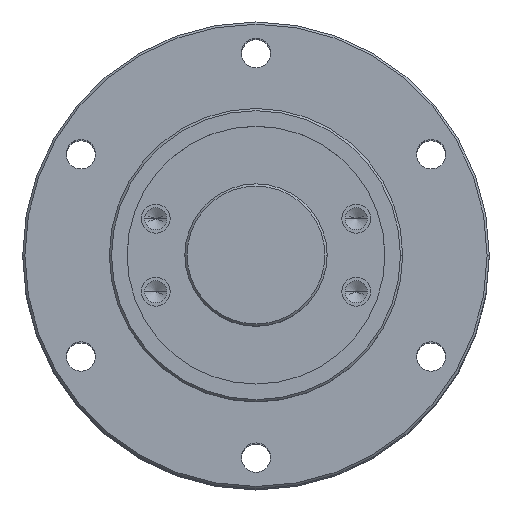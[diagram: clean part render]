
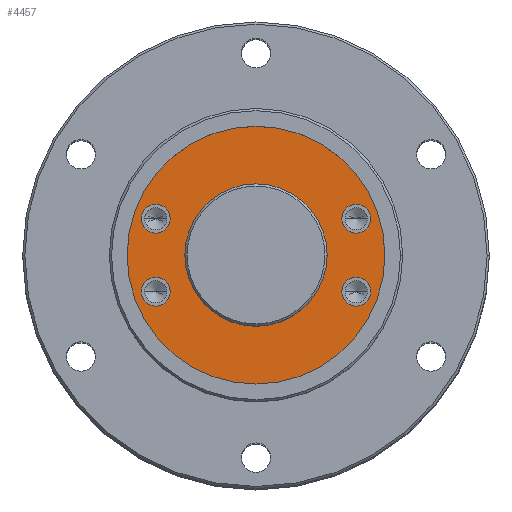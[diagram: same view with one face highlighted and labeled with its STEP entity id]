
A CAD part, top view. The second image highlights one B-rep face of the part: STEP entity #4457.
In plain terms, the highlighted planar face has unit normal (0, 0, 1).
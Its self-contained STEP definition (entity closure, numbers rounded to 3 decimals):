
#86 = EDGE_LOOP ( 'NONE', ( #2234, #2923 ) ) ;
#212 = CARTESIAN_POINT ( 'NONE',  ( 0., 0., 0. ) ) ;
#229 = VERTEX_POINT ( 'NONE', #3981 ) ;
#236 = AXIS2_PLACEMENT_3D ( 'NONE', #826, #3849, #1262 ) ;
#238 = CARTESIAN_POINT ( 'NONE',  ( 19.303, -8.208, 0. ) ) ;
#284 = CARTESIAN_POINT ( 'NONE',  ( 25.803, -8.208, 0. ) ) ;
#426 = AXIS2_PLACEMENT_3D ( 'NONE', #993, #4024, #1432 ) ;
#431 = DIRECTION ( 'NONE',  ( 0., 0., 1. ) ) ;
#594 = EDGE_CURVE ( 'NONE', #2376, #5183, #2347, .T. ) ;
#601 = AXIS2_PLACEMENT_3D ( 'NONE', #4185, #2427, #5613 ) ;
#611 = AXIS2_PLACEMENT_3D ( 'NONE', #4531, #1868, #4989 ) ;
#618 = CARTESIAN_POINT ( 'NONE',  ( -25.803, -8.208, 0. ) ) ;
#626 = DIRECTION ( 'NONE',  ( 0., 0., 1. ) ) ;
#654 = DIRECTION ( 'NONE',  ( 1., 0., 0. ) ) ;
#772 = ORIENTED_EDGE ( 'NONE', *, *, #3962, .F. ) ;
#826 = CARTESIAN_POINT ( 'NONE',  ( 0., 0., 0. ) ) ;
#829 = FACE_OUTER_BOUND ( 'NONE', #994, .T. ) ;
#846 = VERTEX_POINT ( 'NONE', #238 ) ;
#872 = ORIENTED_EDGE ( 'NONE', *, *, #594, .F. ) ;
#899 = CIRCLE ( 'NONE', #3048, 3.25 ) ;
#993 = CARTESIAN_POINT ( 'NONE',  ( -22.553, -8.208, 0. ) ) ;
#994 = EDGE_LOOP ( 'NONE', ( #1133, #5261 ) ) ;
#1031 = CIRCLE ( 'NONE', #3190, 3.25 ) ;
#1133 = ORIENTED_EDGE ( 'NONE', *, *, #5597, .T. ) ;
#1141 = DIRECTION ( 'NONE',  ( 0., 0., 1. ) ) ;
#1182 = CARTESIAN_POINT ( 'NONE',  ( -22.553, -8.208, 0. ) ) ;
#1206 = CARTESIAN_POINT ( 'NONE',  ( 25.803, 8.208, 0. ) ) ;
#1262 = DIRECTION ( 'NONE',  ( 1., 0., 0. ) ) ;
#1264 = AXIS2_PLACEMENT_3D ( 'NONE', #3191, #626, #3628 ) ;
#1310 = VERTEX_POINT ( 'NONE', #4133 ) ;
#1377 = CARTESIAN_POINT ( 'NONE',  ( 22.553, -8.208, 0. ) ) ;
#1432 = DIRECTION ( 'NONE',  ( -1., 0., 0. ) ) ;
#1523 = CIRCLE ( 'NONE', #2140, 3.25 ) ;
#1526 = VERTEX_POINT ( 'NONE', #1206 ) ;
#1555 = CARTESIAN_POINT ( 'NONE',  ( -22.553, 8.208, 0. ) ) ;
#1586 = EDGE_LOOP ( 'NONE', ( #772, #3924 ) ) ;
#1615 = DIRECTION ( 'NONE',  ( 0., 0., 1. ) ) ;
#1616 = EDGE_LOOP ( 'NONE', ( #4985, #872 ) ) ;
#1617 = CIRCLE ( 'NONE', #1787, 16. ) ;
#1624 = DIRECTION ( 'NONE',  ( -1., 0., 0. ) ) ;
#1717 = EDGE_CURVE ( 'NONE', #4549, #2409, #1523, .T. ) ;
#1725 = VERTEX_POINT ( 'NONE', #284 ) ;
#1787 = AXIS2_PLACEMENT_3D ( 'NONE', #4228, #1615, #4714 ) ;
#1802 = DIRECTION ( 'NONE',  ( 1., 0., 0. ) ) ;
#1814 = FACE_BOUND ( 'NONE', #86, .T. ) ;
#1815 = CARTESIAN_POINT ( 'NONE',  ( -19.303, -8.208, 0. ) ) ;
#1845 = EDGE_CURVE ( 'NONE', #1526, #2453, #5302, .T. ) ;
#1868 = DIRECTION ( 'NONE',  ( 0., 0., 1. ) ) ;
#1968 = DIRECTION ( 'NONE',  ( -1., 0., 0. ) ) ;
#1974 = EDGE_LOOP ( 'NONE', ( #4764, #4890 ) ) ;
#1990 = EDGE_CURVE ( 'NONE', #2409, #4549, #1031, .T. ) ;
#1999 = DIRECTION ( 'NONE',  ( 0., 0., 1. ) ) ;
#2030 = CIRCLE ( 'NONE', #426, 3.25 ) ;
#2140 = AXIS2_PLACEMENT_3D ( 'NONE', #3726, #1141, #4188 ) ;
#2234 = ORIENTED_EDGE ( 'NONE', *, *, #1845, .F. ) ;
#2347 = CIRCLE ( 'NONE', #3863, 3.25 ) ;
#2376 = VERTEX_POINT ( 'NONE', #618 ) ;
#2409 = VERTEX_POINT ( 'NONE', #4530 ) ;
#2410 = CIRCLE ( 'NONE', #3936, 29. ) ;
#2427 = DIRECTION ( 'NONE',  ( 0., 0., -1. ) ) ;
#2433 = EDGE_CURVE ( 'NONE', #229, #1310, #3460, .T. ) ;
#2453 = VERTEX_POINT ( 'NONE', #5511 ) ;
#2599 = ORIENTED_EDGE ( 'NONE', *, *, #3483, .F. ) ;
#2923 = ORIENTED_EDGE ( 'NONE', *, *, #2991, .F. ) ;
#2962 = FACE_BOUND ( 'NONE', #3766, .T. ) ;
#2984 = CARTESIAN_POINT ( 'NONE',  ( 22.553, -8.208, 0. ) ) ;
#2991 = EDGE_CURVE ( 'NONE', #2453, #1526, #899, .T. ) ;
#3048 = AXIS2_PLACEMENT_3D ( 'NONE', #4679, #1999, #5146 ) ;
#3088 = FACE_BOUND ( 'NONE', #1974, .T. ) ;
#3117 = AXIS2_PLACEMENT_3D ( 'NONE', #2984, #431, #3430 ) ;
#3190 = AXIS2_PLACEMENT_3D ( 'NONE', #1555, #4635, #1968 ) ;
#3191 = CARTESIAN_POINT ( 'NONE',  ( 0., 0., 0. ) ) ;
#3208 = DIRECTION ( 'NONE',  ( 0., 0., 1. ) ) ;
#3289 = CARTESIAN_POINT ( 'NONE',  ( 16., 0., 0. ) ) ;
#3358 = CARTESIAN_POINT ( 'NONE',  ( -25.803, 8.208, 0. ) ) ;
#3361 = CIRCLE ( 'NONE', #5640, 3.25 ) ;
#3430 = DIRECTION ( 'NONE',  ( 1., 0., 0. ) ) ;
#3460 = CIRCLE ( 'NONE', #1264, 29. ) ;
#3483 = EDGE_CURVE ( 'NONE', #846, #1725, #5497, .T. ) ;
#3524 = ORIENTED_EDGE ( 'NONE', *, *, #5406, .F. ) ;
#3628 = DIRECTION ( 'NONE',  ( 1., 0., 0. ) ) ;
#3726 = CARTESIAN_POINT ( 'NONE',  ( -22.553, 8.208, 0. ) ) ;
#3736 = VERTEX_POINT ( 'NONE', #3289 ) ;
#3766 = EDGE_LOOP ( 'NONE', ( #3524, #2599 ) ) ;
#3849 = DIRECTION ( 'NONE',  ( 0., 0., 1. ) ) ;
#3863 = AXIS2_PLACEMENT_3D ( 'NONE', #1182, #4233, #1624 ) ;
#3924 = ORIENTED_EDGE ( 'NONE', *, *, #5743, .F. ) ;
#3936 = AXIS2_PLACEMENT_3D ( 'NONE', #212, #3208, #654 ) ;
#3962 = EDGE_CURVE ( 'NONE', #3736, #4968, #5282, .T. ) ;
#3981 = CARTESIAN_POINT ( 'NONE',  ( -29., 0., 0. ) ) ;
#4024 = DIRECTION ( 'NONE',  ( 0., 0., 1. ) ) ;
#4133 = CARTESIAN_POINT ( 'NONE',  ( 29., 0., 0. ) ) ;
#4151 = FACE_BOUND ( 'NONE', #1616, .T. ) ;
#4185 = CARTESIAN_POINT ( 'NONE',  ( 0., 29., 0. ) ) ;
#4188 = DIRECTION ( 'NONE',  ( -1., 0., 0. ) ) ;
#4228 = CARTESIAN_POINT ( 'NONE',  ( 0., 0., 0. ) ) ;
#4233 = DIRECTION ( 'NONE',  ( 0., 0., 1. ) ) ;
#4248 = EDGE_CURVE ( 'NONE', #5183, #2376, #2030, .T. ) ;
#4444 = DIRECTION ( 'NONE',  ( 0., 0., 1. ) ) ;
#4457 = ADVANCED_FACE ( 'NONE', ( #5422, #3088, #4151, #2962, #1814, #829 ), #5136, .F. ) ;
#4530 = CARTESIAN_POINT ( 'NONE',  ( -19.303, 8.208, 0. ) ) ;
#4531 = CARTESIAN_POINT ( 'NONE',  ( 22.553, 8.208, 0. ) ) ;
#4549 = VERTEX_POINT ( 'NONE', #3358 ) ;
#4635 = DIRECTION ( 'NONE',  ( 0., 0., 1. ) ) ;
#4679 = CARTESIAN_POINT ( 'NONE',  ( 22.553, 8.208, 0. ) ) ;
#4714 = DIRECTION ( 'NONE',  ( 1., 0., 0. ) ) ;
#4764 = ORIENTED_EDGE ( 'NONE', *, *, #1990, .F. ) ;
#4890 = ORIENTED_EDGE ( 'NONE', *, *, #1717, .F. ) ;
#4968 = VERTEX_POINT ( 'NONE', #5294 ) ;
#4985 = ORIENTED_EDGE ( 'NONE', *, *, #4248, .F. ) ;
#4989 = DIRECTION ( 'NONE',  ( 1., 0., 0. ) ) ;
#5136 = PLANE ( 'NONE',  #601 ) ;
#5146 = DIRECTION ( 'NONE',  ( 1., 0., 0. ) ) ;
#5183 = VERTEX_POINT ( 'NONE', #1815 ) ;
#5261 = ORIENTED_EDGE ( 'NONE', *, *, #2433, .T. ) ;
#5282 = CIRCLE ( 'NONE', #236, 16. ) ;
#5294 = CARTESIAN_POINT ( 'NONE',  ( -16., 0., 0. ) ) ;
#5302 = CIRCLE ( 'NONE', #611, 3.25 ) ;
#5406 = EDGE_CURVE ( 'NONE', #1725, #846, #3361, .T. ) ;
#5422 = FACE_BOUND ( 'NONE', #1586, .T. ) ;
#5497 = CIRCLE ( 'NONE', #3117, 3.25 ) ;
#5511 = CARTESIAN_POINT ( 'NONE',  ( 19.303, 8.208, 0. ) ) ;
#5597 = EDGE_CURVE ( 'NONE', #1310, #229, #2410, .T. ) ;
#5613 = DIRECTION ( 'NONE',  ( -1., 0., 0. ) ) ;
#5640 = AXIS2_PLACEMENT_3D ( 'NONE', #1377, #4444, #1802 ) ;
#5743 = EDGE_CURVE ( 'NONE', #4968, #3736, #1617, .T. ) ;
